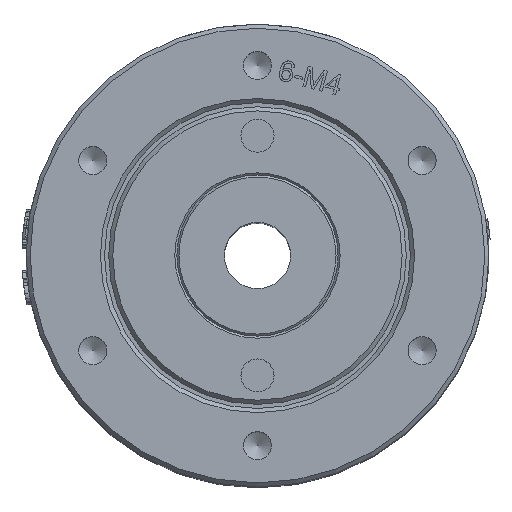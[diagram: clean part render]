
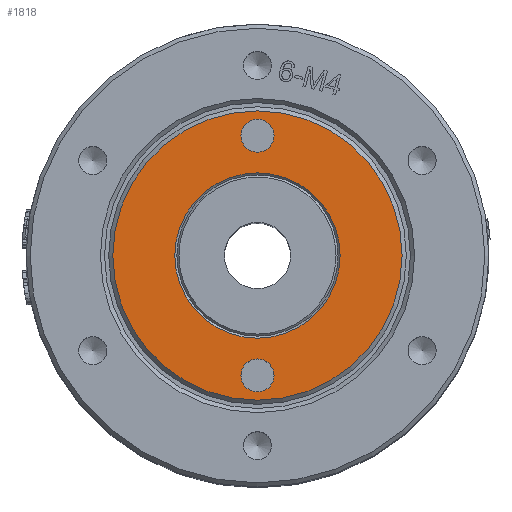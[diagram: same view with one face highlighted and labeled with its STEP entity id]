
A CAD part, top view. The second image highlights one B-rep face of the part: STEP entity #1818.
In plain terms, the highlighted planar face has unit normal (0, 0, 1).
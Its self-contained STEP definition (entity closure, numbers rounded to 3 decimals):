
#309=FACE_BOUND('',#4839,.T.);
#310=FACE_BOUND('',#4840,.T.);
#311=FACE_BOUND('',#4841,.T.);
#312=FACE_BOUND('',#4842,.T.);
#529=CIRCLE('',#23186,10.);
#530=CIRCLE('',#23188,2.);
#531=CIRCLE('',#23190,2.);
#532=CIRCLE('',#23192,17.5);
#1818=ADVANCED_FACE('',(#309,#310,#311,#312),#2769,.F.);
#2769=PLANE('',#23193);
#4839=EDGE_LOOP('',(#10306));
#4840=EDGE_LOOP('',(#10307));
#4841=EDGE_LOOP('',(#10308));
#4842=EDGE_LOOP('',(#10309));
#10306=ORIENTED_EDGE('',*,*,#18099,.T.);
#10307=ORIENTED_EDGE('',*,*,#18098,.T.);
#10308=ORIENTED_EDGE('',*,*,#18097,.T.);
#10309=ORIENTED_EDGE('',*,*,#18096,.T.);
#15344=VERTEX_POINT('',#37282);
#15345=VERTEX_POINT('',#37285);
#15346=VERTEX_POINT('',#37288);
#15347=VERTEX_POINT('',#37291);
#18096=EDGE_CURVE('',#15344,#15344,#529,.T.);
#18097=EDGE_CURVE('',#15345,#15345,#530,.T.);
#18098=EDGE_CURVE('',#15346,#15346,#531,.T.);
#18099=EDGE_CURVE('',#15347,#15347,#532,.T.);
#23186=AXIS2_PLACEMENT_3D('',#37281,#25011,#25012);
#23188=AXIS2_PLACEMENT_3D('',#37284,#25015,#25016);
#23190=AXIS2_PLACEMENT_3D('',#37287,#25019,#25020);
#23192=AXIS2_PLACEMENT_3D('',#37290,#25023,#25024);
#23193=AXIS2_PLACEMENT_3D('',#37292,#25025,#25026);
#25011=DIRECTION('',(0.,0.,-1.));
#25012=DIRECTION('',(-1.,0.,0.));
#25015=DIRECTION('',(0.,0.,-1.));
#25016=DIRECTION('',(-1.,0.,0.));
#25019=DIRECTION('',(0.,0.,-1.));
#25020=DIRECTION('',(-1.,0.,0.));
#25023=DIRECTION('',(0.,0.,1.));
#25024=DIRECTION('',(-1.,0.,0.));
#25025=DIRECTION('',(0.,0.,-1.));
#25026=DIRECTION('',(-1.,0.,0.));
#37281=CARTESIAN_POINT('',(0.,0.,61.5));
#37282=CARTESIAN_POINT('',(-10.,0.,61.5));
#37284=CARTESIAN_POINT('',(0.,-14.5,61.5));
#37285=CARTESIAN_POINT('',(-2.,-14.5,61.5));
#37287=CARTESIAN_POINT('',(0.,14.5,61.5));
#37288=CARTESIAN_POINT('',(-2.,14.5,61.5));
#37290=CARTESIAN_POINT('',(0.,0.,61.5));
#37291=CARTESIAN_POINT('',(-17.5,0.,61.5));
#37292=CARTESIAN_POINT('',(0.,0.,61.5));
